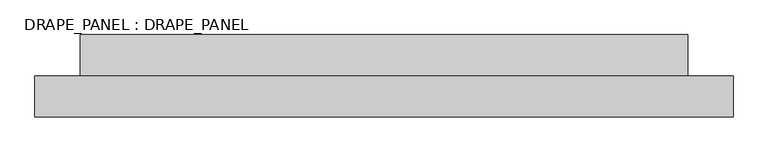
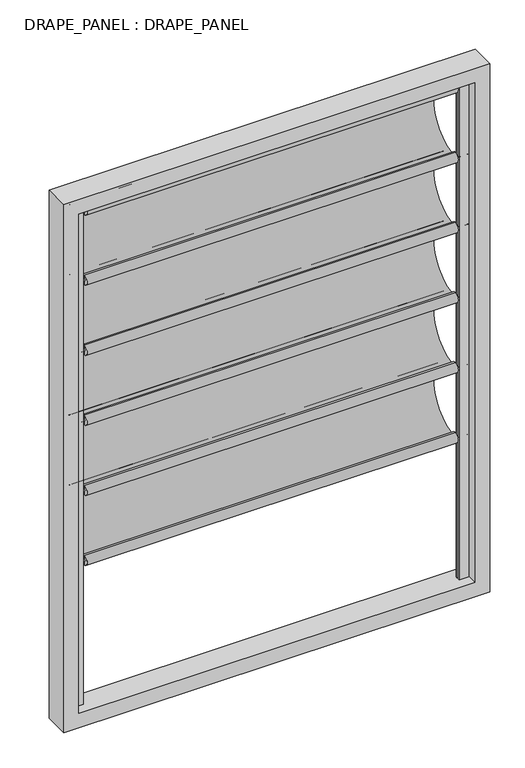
"""IFC4 building model written with IfcOpenShell, lengths in millimetres: plate geometry, DRAPE_PANEL : DRAPE_PANEL."""

import ifcopenshell
import ifcopenshell.guid

model = None  # the IFC model being written
_history = None  # IfcOwnerHistory: only IFC2X3 demands one
_inside = {}  # id of a spatial element -> (the spatial element, [elements in it])
_under = {}  # id of a project, library or spatial element -> (it, [spatial elements below it])
_declared = {}  # id of a project -> (the project, [libraries it declares])
_typed = {}  # id of a type object -> (the type object, [elements of that type])
_made_of = {}  # id of a material, layer set ... -> (it, [elements and type objects made of it])


def new_model(schema):
    """Start an empty IFC model of exactly this schema.

    Asked for "IFC4X3", IfcOpenShell would pick the latest addendum, in which some entities
    have other attributes; the version numbers below select the first issue.
    IFC2X3 requires an IfcOwnerHistory on every rooted entity: one is made here for all.
    """
    global model, _history
    if schema == "IFC4X3":
        model = ifcopenshell.file(schema_version=(4, 3, 0, 0))
    else:
        model = ifcopenshell.file(schema=schema)
    _inside.clear()
    _under.clear()
    _declared.clear()
    _typed.clear()
    _made_of.clear()
    _history = None
    if model.schema == "IFC2X3":
        org = make("IfcOrganization", Name="unknown")
        user = make(
            "IfcPersonAndOrganization",
            ThePerson=make("IfcPerson", FamilyName="unknown"),
            TheOrganization=org,
        )
        app = make(
            "IfcApplication",
            ApplicationDeveloper=org,
            Version="unknown",
            ApplicationFullName="unknown",
            ApplicationIdentifier="unknown",
        )
        _history = make(
            "IfcOwnerHistory",
            OwningUser=user,
            OwningApplication=app,
            ChangeAction="ADDED",
            CreationDate=0,
        )
    return model


def make(cls, **values):
    """One entity of the class cls with the attributes given. An attribute that is None is left unset."""
    return model.create_entity(
        cls, **{name: value for name, value in values.items() if value is not None}
    )


def rooted(cls, **values):
    """An entity with a GlobalId (a new one), such as an element, a storey or a relation."""
    return make(cls, GlobalId=ifcopenshell.guid.new(), OwnerHistory=_history, **values)


def si_unit(unit_type, name, prefix=None):
    """IfcSIUnit, for example si_unit("LENGTHUNIT", "METRE", prefix="MILLI")."""
    return make("IfcSIUnit", UnitType=unit_type, Prefix=prefix, Name=name)


def assignment(units):
    """IfcUnitAssignment: the units of a project."""
    return None if units is None else make("IfcUnitAssignment", Units=units)


def point(xyz):
    """IfcCartesianPoint."""
    return None if xyz is None else make("IfcCartesianPoint", Coordinates=xyz)


def direction(xyz):
    """IfcDirection."""
    return None if xyz is None else make("IfcDirection", DirectionRatios=xyz)


def frame(location, z_axis=None, x_axis=None):
    """IfcAxis2Placement3D, a coordinate frame: its origin and axes. An axis left out is left unset."""
    return make(
        "IfcAxis2Placement3D",
        Location=point(location),
        Axis=direction(z_axis),
        RefDirection=direction(x_axis),
    )


def origin():
    """The frame at (0, 0, 0) with its axes left unset."""
    return frame((0.0, 0.0, 0.0))


def place(relative_to, where):
    """IfcLocalPlacement: puts the frame where relative to a parent placement (None: the world)."""
    return make(
        "IfcLocalPlacement", PlacementRelTo=relative_to, RelativePlacement=where
    )


def context(
    kind, dimensions, precision=None, world=None, true_north=None, identifier=None
):
    """IfcGeometricRepresentationContext, for example the 3D "Model" context."""
    return make(
        "IfcGeometricRepresentationContext",
        ContextIdentifier=identifier,
        ContextType=kind,
        CoordinateSpaceDimension=dimensions,
        Precision=precision,
        WorldCoordinateSystem=world,
        TrueNorth=true_north,
    )


def project(units=None, contexts=None):
    """IfcProject with its units and contexts."""
    return rooted(
        "IfcProject",
        Name="project",
        RepresentationContexts=contexts,
        UnitsInContext=assignment(units),
    )


def spatial(cls, under=None, at=None, **own):
    """A site, building, storey or space (cls), placed at a placement, below another one or the project."""
    s = rooted(cls, ObjectPlacement=at, **own)
    if under is not None:
        _under.setdefault(under.id(), (under, []))[1].append(s)
    return s


def polyline(points):
    """IfcPolyline through the points."""
    return make("IfcPolyline", Points=[point(p) for p in points])


def circle_curve(where, radius):
    """IfcCircle in the frame where."""
    return make("IfcCircle", Position=where, Radius=radius)


def ellipse_curve(where, semi_axis1, semi_axis2):
    """IfcEllipse in the frame where."""
    return make(
        "IfcEllipse", Position=where, SemiAxis1=semi_axis1, SemiAxis2=semi_axis2
    )


def trimmed(basis, trim1, trim2, sense, master):
    """IfcTrimmedCurve: the piece of a basis curve between two trims."""
    return make(
        "IfcTrimmedCurve",
        BasisCurve=basis,
        Trim1=trim1,
        Trim2=trim2,
        SenseAgreement=sense,
        MasterRepresentation=master,
    )


def outline(outer, holes=None, kind="AREA"):
    """IfcArbitraryClosedProfileDef: a profile drawn as a closed curve; with holes, ...WithVoids."""
    if holes is None:
        return make("IfcArbitraryClosedProfileDef", ProfileType=kind, OuterCurve=outer)
    return make(
        "IfcArbitraryProfileDefWithVoids",
        ProfileType=kind,
        OuterCurve=outer,
        InnerCurves=holes,
    )


def extrude(swept, where, along, depth):
    """IfcExtrudedAreaSolid: the profile swept, set in the frame where, extruded along a direction by depth."""
    return make(
        "IfcExtrudedAreaSolid",
        SweptArea=swept,
        Position=where,
        ExtrudedDirection=direction(along),
        Depth=depth,
    )


def shape(context_of_items, identifier, shape_type, items):
    """IfcShapeRepresentation: the items that make up one representation, for example the "Body"."""
    return make(
        "IfcShapeRepresentation",
        ContextOfItems=context_of_items,
        RepresentationIdentifier=identifier,
        RepresentationType=shape_type,
        Items=items,
    )


def source(mapping_origin, context_of_items, identifier, shape_type, items):
    """IfcRepresentationMap: a shape defined once, which mapped items show again and again."""
    return make(
        "IfcRepresentationMap",
        MappingOrigin=mapping_origin,
        MappedRepresentation=shape(context_of_items, identifier, shape_type, items),
    )


def transform(
    local_origin,
    x_axis=None,
    y_axis=None,
    z_axis=None,
    scale=None,
    scale2=None,
    scale3=None,
    uniform=True,
):
    """IfcCartesianTransformationOperator3D, or its non-uniform kind. x_axis, y_axis, z_axis: its Axis1, 2, 3."""
    if uniform:
        return make(
            "IfcCartesianTransformationOperator3D",
            Axis1=direction(x_axis),
            Axis2=direction(y_axis),
            LocalOrigin=point(local_origin),
            Scale=scale,
            Axis3=direction(z_axis),
        )
    return make(
        "IfcCartesianTransformationOperator3DnonUniform",
        Axis1=direction(x_axis),
        Axis2=direction(y_axis),
        LocalOrigin=point(local_origin),
        Scale=scale,
        Axis3=direction(z_axis),
        Scale2=scale2,
        Scale3=scale3,
    )


def mapped(mapping_source, mapping_target):
    """IfcMappedItem: shows the shape of a source again, moved by a transform."""
    return make(
        "IfcMappedItem", MappingSource=mapping_source, MappingTarget=mapping_target
    )


def made_of(thing, what):
    """Note that an element or type object is made of a material, layer set ...; save() writes the relation."""
    if what is not None:
        _made_of.setdefault(what.id(), (what, []))[1].append(thing)
    return thing


def element(
    cls,
    number,
    at=None,
    inside=None,
    cuts=None,
    type_object=None,
    material=None,
    context=None,
    identifier="Body",
    shape_type=None,
    held_by="IfcProductDefinitionShape",
    body=None,
    shapes=None,
    **own,
):
    """One element of the class cls, such as IfcWall. Its Tag is "e" and its number.

    at: its placement. inside: the storey or other place that contains it. cuts: it is an
    opening in that element (IfcRelVoidsElement). A single representation is given by context,
    identifier, shape_type and body (its items); several are given by shapes. held_by: the class
    of the entity that holds the representations. save() writes the other relations.
    """
    e = rooted(cls, Tag="e%d" % number, ObjectPlacement=at, **own)
    if body is not None:
        shapes = [shape(context, identifier, shape_type, body)]
    if shapes is not None:
        e.Representation = make(held_by, Representations=shapes)
    if inside is not None:
        _inside.setdefault(inside.id(), (inside, []))[1].append(e)
    if cuts is not None:
        rooted(
            "IfcRelVoidsElement", RelatingBuildingElement=cuts, RelatedOpeningElement=e
        )
    if type_object is not None:
        _typed.setdefault(type_object.id(), (type_object, []))[1].append(e)
    return made_of(e, material)


def aggregate(whole, parts):
    """IfcRelAggregates: a whole, such as a stair, and the parts it consists of."""
    return rooted("IfcRelAggregates", RelatingObject=whole, RelatedObjects=parts)


def save(model, path):
    """Write the relations noted so far, then the file.

    IfcRelAggregates (storeys below a building ...), IfcRelContainedInSpatialStructure (elements
    in a storey), IfcRelDefinesByType, IfcRelAssociatesMaterial and IfcRelDeclares: one each for
    every whole, place, type object, material and project.
    """
    for whole, parts in _under.values():
        aggregate(whole, parts)
    for where, things in _inside.values():
        rooted(
            "IfcRelContainedInSpatialStructure",
            RelatedElements=things,
            RelatingStructure=where,
        )
    for kind, things in _typed.values():
        rooted("IfcRelDefinesByType", RelatedObjects=things, RelatingType=kind)
    for what, things in _made_of.values():
        rooted("IfcRelAssociatesMaterial", RelatedObjects=things, RelatingMaterial=what)
    for by, libraries in _declared.values():
        rooted("IfcRelDeclares", RelatingContext=by, RelatedDefinitions=libraries)
    model.write(path)


def plane_surface(at):
    """IfcPlane: the flat surface through the origin of the frame at, square to its z axis."""
    return make("IfcPlane", Position=at)


def cylinder_surface(at, radius):
    """IfcCylindricalSurface: all points at the distance radius from the z axis of the frame at."""
    return make("IfcCylindricalSurface", Position=at, Radius=radius)


def extruded_surface(curve, direction_of_extrusion, depth):
    """IfcSurfaceOfLinearExtrusion: the curve pushed along a direction by depth."""
    return make(
        "IfcSurfaceOfLinearExtrusion",
        SweptCurve=make("IfcArbitraryOpenProfileDef", ProfileType="CURVE", Curve=curve),
        ExtrudedDirection=direction(direction_of_extrusion),
        Depth=depth,
    )


def advanced_brep(points, edges, surfaces, faces):
    """IfcAdvancedBrep: a solid bounded by faces that lie on surfaces and meet in shared edges.

    An edge is (start, end): straight between two places in points (the first is 0);
    or (start, end, curve); or (start, end, curve, False) where it runs against its curve.
    A face is (place in surfaces, loops), or (place, loops, False) where it looks against
    its surface's normal. A loop lists edges by number (the first is 1), with a minus sign
    where the edge is run from its end to its start. The first loop is the outer one.
    """
    corners = [point(p) for p in points]
    vertices = [make("IfcVertexPoint", VertexGeometry=c) for c in corners]
    made = []
    for start, end, *more in edges:
        made.append(
            make(
                "IfcEdgeCurve",
                EdgeStart=vertices[start],
                EdgeEnd=vertices[end],
                EdgeGeometry=more[0] if more else make("IfcPolyline", Points=[corners[start], corners[end]]),
                SameSense=more[1] if len(more) > 1 else True,
            )
        )
    hull = []
    for where, loops, *sense in faces:
        bounds = []
        for j, loop in enumerate(loops):
            ring = [make("IfcOrientedEdge", EdgeElement=made[abs(k) - 1], Orientation=k > 0) for k in loop]
            bounds.append(
                make(
                    "IfcFaceOuterBound" if j == 0 else "IfcFaceBound",
                    Bound=make("IfcEdgeLoop", EdgeList=ring),
                    Orientation=True,
                )
            )
        hull.append(make("IfcAdvancedFace", Bounds=bounds, FaceSurface=surfaces[where], SameSense=sense[0] if sense else True))
    return make("IfcAdvancedBrep", Outer=make("IfcClosedShell", CfsFaces=hull))


def drape_panel_drape_panel_09784488(model_context):
    return source(origin(), model_context, "Body", "SolidModel", [
        advanced_brep(
        [(-790.0, 0.0, 1251.5019792), (-790.0, 0.0, 1256.5019792), (-790.0, 0.0, 1246.5019792), (790.0, 0.0, 1246.5019792), (790.0, 0.0, 1256.5019792), (790.0, 0.0, 1251.5019792), (740.0, 0.0, 1246.5019792), (740.0, 0.0, 1256.5019792), (740.0, 0.0, 1231.5019792), (740.0, 0.0, 1271.5019792), (-740.0, 0.0, 1231.5019792), (-740.0, 0.0, 1271.5019792), (-740.0, 0.0, 1246.5019792), (-740.0, 0.0, 1256.5019792)],
        [
            (0, 1),
            (1, 2, circle_curve(frame((-790.0, 0.0, 1251.5019792), z_axis=(-1.0, 0.0, 0.0), x_axis=(0.0, 0.0, 1.0)), 5.0)),
            (2, 0),
            (2, 1, circle_curve(frame((-790.0, 0.0, 1251.5019792), z_axis=(-1.0, 0.0, 0.0), x_axis=(0.0, 0.0, 1.0)), 5.0)),
            (3, 4, circle_curve(frame((790.0, 0.0, 1251.5019792), z_axis=(1.0, 0.0, 0.0), x_axis=(0.0, 0.0, 1.0)), 5.0)),
            (4, 5),
            (5, 3),
            (4, 3, circle_curve(frame((790.0, 0.0, 1251.5019792), z_axis=(1.0, 0.0, 0.0), x_axis=(0.0, 0.0, 1.0)), 5.0)),
            (6, 7, circle_curve(frame((740.0, 0.0, 1251.5019792), z_axis=(1.0, 0.0, 0.0), x_axis=(0.0, 0.0, 1.0)), 5.0)),
            (7, 4),
            (3, 6),
            (7, 6, circle_curve(frame((740.0, 0.0, 1251.5019792), z_axis=(1.0, 0.0, 0.0), x_axis=(0.0, 0.0, 1.0)), 5.0)),
            (8, 9, circle_curve(frame((740.0, 0.0, 1251.5019792), z_axis=(1.0, 0.0, 0.0), x_axis=(0.0, 0.0, 1.0)), 20.0)),
            (9, 7),
            (6, 8),
            (9, 8, circle_curve(frame((740.0, 0.0, 1251.5019792), z_axis=(1.0, 0.0, 0.0), x_axis=(0.0, 0.0, 1.0)), 20.0)),
            (10, 11, circle_curve(frame((-740.0, 0.0, 1251.5019792), z_axis=(1.0, 0.0, 0.0), x_axis=(0.0, 0.0, 1.0)), 20.0)),
            (11, 9),
            (8, 10),
            (11, 10, circle_curve(frame((-740.0, 0.0, 1251.5019792), z_axis=(1.0, 0.0, 0.0), x_axis=(0.0, 0.0, 1.0)), 20.0)),
            (12, 13, circle_curve(frame((-740.0, 0.0, 1251.5019792), z_axis=(1.0, 0.0, 0.0), x_axis=(0.0, 0.0, 1.0)), 5.0)),
            (13, 11),
            (10, 12),
            (13, 12, circle_curve(frame((-740.0, 0.0, 1251.5019792), z_axis=(1.0, 0.0, 0.0), x_axis=(0.0, 0.0, 1.0)), 5.0)),
            (1, 13),
            (12, 2),
        ],
        [
            plane_surface(frame((-790.0, 0.0, 1251.5019792), z_axis=(-1.0, 0.0, 0.0), x_axis=(0.0, 0.0, 1.0))),
            plane_surface(frame((790.0, 0.0, 1251.5019792), z_axis=(1.0, 0.0, 0.0), x_axis=(0.0, 0.0, 1.0))),
            cylinder_surface(frame((6238.8752301, 0.0, 1251.5019792), z_axis=(-1.0, 0.0, 0.0), x_axis=(0.0, 0.0, 1.0)), 5.0),
            plane_surface(frame((740.0, 0.0, 1251.5019792), z_axis=(1.0, 0.0, 0.0), x_axis=(0.0, 0.0, 1.0))),
            cylinder_surface(frame((6238.8752301, 0.0, 1251.5019792), z_axis=(-1.0, 0.0, 0.0), x_axis=(0.0, 0.0, 1.0)), 20.0),
            plane_surface(frame((-740.0, 0.0, 1251.5019792), z_axis=(-1.0, 0.0, 0.0), x_axis=(0.0, 0.0, 1.0))),
        ],
        [
            (0, [[1, 2, 3]]),
            (0, [[-3, 4, -1]]),
            (1, [[5, 6, 7]]),
            (1, [[8, -7, -6]]),
            (2, [[9, 10, -5, 11]]),
            (2, [[12, -11, -8, -10]]),
            (3, [[13, 14, -9, 15]]),
            (3, [[16, -15, -12, -14]]),
            (4, [[17, 18, -13, 19]]),
            (4, [[20, -19, -16, -18]]),
            (5, [[21, 22, -17, 23]]),
            (5, [[24, -23, -20, -22]]),
            (2, [[-2, 25, -21, 26]]),
            (2, [[-4, -26, -24, -25]]),
        ],
    ),
        advanced_brep(
        [(740.0, 0.0, 1251.5019792), (740.0, 0.0, 1248.5019792), (740.0, 0.0, 958.7509896), (740.0, 0.0, 955.7509896), (-740.0, 0.0, 1251.5019792), (-740.0, 0.0, 955.7509896), (-740.0, 0.0, 958.7509896), (-740.0, 0.0, 1248.5019792)],
        [
            (0, 1),
            (1, 2, ellipse_curve(frame((740.0, 0.0, 1103.6264844), z_axis=(-1.0, 0.0, 0.0), x_axis=(0.0, -1.0, 0.0)), 147.6787319, 144.8754948)),
            (2, 3),
            (3, 0, ellipse_curve(frame((740.0, 0.0, 1103.6264844), z_axis=(1.0, 0.0, 0.0), x_axis=(0.0, 1.0, 0.0)), 150.6787319, 147.8754948)),
            (4, 5, ellipse_curve(frame((-740.0, 0.0, 1103.6264844), z_axis=(-1.0, 0.0, 0.0), x_axis=(0.0, 0.0, -1.0)), 147.8754948, 150.6787319)),
            (5, 6),
            (6, 7, ellipse_curve(frame((-740.0, 0.0, 1103.6264844), z_axis=(1.0, 0.0, 0.0), x_axis=(0.0, 0.0, -1.0)), 144.8754948, 147.6787319)),
            (7, 4),
            (0, 4),
            (7, 1),
            (6, 2),
            (5, 3),
        ],
        [
            plane_surface(frame((740.0, 0.0, 1251.5019792), z_axis=(1.0, 0.0, 0.0), x_axis=(0.0, -1.202815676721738e-12, -1.0))),
            plane_surface(frame((-740.0, 0.0, 1251.5019792), z_axis=(-1.0, 0.0, 0.0), x_axis=(0.0, 1.202815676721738e-12, 1.0))),
            plane_surface(frame((740.0, 0.0, 1251.5019792), z_axis=(0.0, -1.0, 1.202815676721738e-12), x_axis=(-1.0, 0.0, 0.0))),
            extruded_surface(trimmed(ellipse_curve(frame((-2220.0, 0.0, 1103.6264844), z_axis=(-1.0, 0.0, 0.0), x_axis=(0.0, 0.0, -1.0)), 144.8754948, 147.6787319), [point((-2220.0, 0.0, 1248.5019792))], [point((-2220.0, 0.0, 958.7509896))], True, "CARTESIAN"), (1480.0, 0.0, 0.0), 1480.0),
            plane_surface(frame((740.0, 0.0, 958.7509896), z_axis=(0.0, -1.0, 0.0), x_axis=(-1.0, 0.0, 0.0))),
            extruded_surface(trimmed(ellipse_curve(frame((-2220.0, 0.0, 1103.6264844), z_axis=(1.0, 0.0, 0.0), x_axis=(0.0, 0.0, -1.0)), 147.8754948, 150.6787319), [point((-2220.0, 0.0, 955.7509896))], [point((-2220.0, 0.0, 1251.5019792))], True, "CARTESIAN"), (1480.0, 0.0, 0.0), 1480.0),
        ],
        [
            (0, [[1, 2, 3, 4]]),
            (1, [[5, 6, 7, 8]]),
            (2, [[-1, 9, -8, 10]]),
            (3, [[-2, -10, -7, 11]]),
            (4, [[-3, -11, -6, 12]]),
            (5, [[-4, -12, -5, -9]]),
        ],
    ),
        advanced_brep(
        [(-790.0, 0.0, 1547.2529688), (-790.0, 0.0, 1552.2529688), (-790.0, 0.0, 1542.2529688), (790.0, 0.0, 1542.2529688), (790.0, 0.0, 1552.2529688), (790.0, 0.0, 1547.2529688), (740.0, 0.0, 1542.2529688), (740.0, 0.0, 1552.2529688), (740.0, 0.0, 1527.2529688), (740.0, 0.0, 1567.2529688), (-740.0, 0.0, 1527.2529688), (-740.0, 0.0, 1567.2529688), (-740.0, 0.0, 1542.2529688), (-740.0, 0.0, 1552.2529688)],
        [
            (0, 1),
            (1, 2, circle_curve(frame((-790.0, 0.0, 1547.2529688), z_axis=(-1.0, 0.0, 0.0), x_axis=(0.0, 0.0, 1.0)), 5.0)),
            (2, 0),
            (2, 1, circle_curve(frame((-790.0, 0.0, 1547.2529688), z_axis=(-1.0, 0.0, 0.0), x_axis=(0.0, 0.0, 1.0)), 5.0)),
            (3, 4, circle_curve(frame((790.0, 0.0, 1547.2529688), z_axis=(1.0, 0.0, 0.0), x_axis=(0.0, 0.0, 1.0)), 5.0)),
            (4, 5),
            (5, 3),
            (4, 3, circle_curve(frame((790.0, 0.0, 1547.2529688), z_axis=(1.0, 0.0, 0.0), x_axis=(0.0, 0.0, 1.0)), 5.0)),
            (6, 7, circle_curve(frame((740.0, 0.0, 1547.2529688), z_axis=(1.0, 0.0, 0.0), x_axis=(0.0, 0.0, 1.0)), 5.0)),
            (7, 4),
            (3, 6),
            (7, 6, circle_curve(frame((740.0, 0.0, 1547.2529688), z_axis=(1.0, 0.0, 0.0), x_axis=(0.0, 0.0, 1.0)), 5.0)),
            (8, 9, circle_curve(frame((740.0, 0.0, 1547.2529688), z_axis=(1.0, 0.0, 0.0), x_axis=(0.0, 0.0, 1.0)), 20.0)),
            (9, 7),
            (6, 8),
            (9, 8, circle_curve(frame((740.0, 0.0, 1547.2529688), z_axis=(1.0, 0.0, 0.0), x_axis=(0.0, 0.0, 1.0)), 20.0)),
            (10, 11, circle_curve(frame((-740.0, 0.0, 1547.2529688), z_axis=(1.0, 0.0, 0.0), x_axis=(0.0, 0.0, 1.0)), 20.0)),
            (11, 9),
            (8, 10),
            (11, 10, circle_curve(frame((-740.0, 0.0, 1547.2529688), z_axis=(1.0, 0.0, 0.0), x_axis=(0.0, 0.0, 1.0)), 20.0)),
            (12, 13, circle_curve(frame((-740.0, 0.0, 1547.2529688), z_axis=(1.0, 0.0, 0.0), x_axis=(0.0, 0.0, 1.0)), 5.0)),
            (13, 11),
            (10, 12),
            (13, 12, circle_curve(frame((-740.0, 0.0, 1547.2529688), z_axis=(1.0, 0.0, 0.0), x_axis=(0.0, 0.0, 1.0)), 5.0)),
            (1, 13),
            (12, 2),
        ],
        [
            plane_surface(frame((-790.0, 0.0, 1547.2529688), z_axis=(-1.0, 0.0, 0.0), x_axis=(0.0, 0.0, 1.0))),
            plane_surface(frame((790.0, 0.0, 1547.2529688), z_axis=(1.0, 0.0, 0.0), x_axis=(0.0, 0.0, 1.0))),
            cylinder_surface(frame((6238.8752301, 0.0, 1547.2529688), z_axis=(-1.0, 0.0, 0.0), x_axis=(0.0, 0.0, 1.0)), 5.0),
            plane_surface(frame((740.0, 0.0, 1547.2529688), z_axis=(1.0, 0.0, 0.0), x_axis=(0.0, 0.0, 1.0))),
            cylinder_surface(frame((6238.8752301, 0.0, 1547.2529688), z_axis=(-1.0, 0.0, 0.0), x_axis=(0.0, 0.0, 1.0)), 20.0),
            plane_surface(frame((-740.0, 0.0, 1547.2529688), z_axis=(-1.0, 0.0, 0.0), x_axis=(0.0, 0.0, 1.0))),
        ],
        [
            (0, [[1, 2, 3]]),
            (0, [[-3, 4, -1]]),
            (1, [[5, 6, 7]]),
            (1, [[8, -7, -6]]),
            (2, [[9, 10, -5, 11]]),
            (2, [[12, -11, -8, -10]]),
            (3, [[13, 14, -9, 15]]),
            (3, [[16, -15, -12, -14]]),
            (4, [[17, 18, -13, 19]]),
            (4, [[20, -19, -16, -18]]),
            (5, [[21, 22, -17, 23]]),
            (5, [[24, -23, -20, -22]]),
            (2, [[-2, 25, -21, 26]]),
            (2, [[-4, -26, -24, -25]]),
        ],
    ),
        advanced_brep(
        [(740.0, 0.0, 1547.2529688), (740.0, 0.0, 1544.2529688), (740.0, 0.0, 1254.5019792), (740.0, 0.0, 1251.5019792), (-740.0, 0.0, 1547.2529688), (-740.0, 0.0, 1251.5019792), (-740.0, 0.0, 1254.5019792), (-740.0, 0.0, 1544.2529688)],
        [
            (0, 1),
            (1, 2, ellipse_curve(frame((740.0, 0.0, 1399.377474), z_axis=(-1.0, 0.0, 0.0), x_axis=(0.0, -1.0, 0.0)), 147.6787319, 144.8754948)),
            (2, 3),
            (3, 0, ellipse_curve(frame((740.0, 0.0, 1399.377474), z_axis=(1.0, 0.0, 0.0), x_axis=(0.0, 1.0, 0.0)), 150.6787319, 147.8754948)),
            (4, 5, ellipse_curve(frame((-740.0, 0.0, 1399.377474), z_axis=(-1.0, 0.0, 0.0), x_axis=(0.0, 0.0, -1.0)), 147.8754948, 150.6787319)),
            (5, 6),
            (6, 7, ellipse_curve(frame((-740.0, 0.0, 1399.377474), z_axis=(1.0, 0.0, 0.0), x_axis=(0.0, 0.0, -1.0)), 144.8754948, 147.6787319)),
            (7, 4),
            (0, 4),
            (7, 1),
            (6, 2),
            (5, 3),
        ],
        [
            plane_surface(frame((740.0, 0.0, 1547.2529688), z_axis=(1.0, 0.0, 0.0), x_axis=(0.0, -1.202815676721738e-12, -1.0))),
            plane_surface(frame((-740.0, 0.0, 1547.2529688), z_axis=(-1.0, 0.0, 0.0), x_axis=(0.0, 1.202815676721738e-12, 1.0))),
            plane_surface(frame((740.0, 0.0, 1547.2529688), z_axis=(0.0, -1.0, 1.202815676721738e-12), x_axis=(-1.0, 0.0, 0.0))),
            extruded_surface(trimmed(ellipse_curve(frame((-2220.0, 0.0, 1399.377474), z_axis=(-1.0, 0.0, 0.0), x_axis=(0.0, 0.0, -1.0)), 144.8754948, 147.6787319), [point((-2220.0, 0.0, 1544.2529688))], [point((-2220.0, 0.0, 1254.5019792))], True, "CARTESIAN"), (1480.0, 0.0, 0.0), 1480.0),
            plane_surface(frame((740.0, 0.0, 1254.5019792), z_axis=(0.0, -1.0, 0.0), x_axis=(-1.0, 0.0, 0.0))),
            extruded_surface(trimmed(ellipse_curve(frame((-2220.0, 0.0, 1399.377474), z_axis=(1.0, 0.0, 0.0), x_axis=(0.0, 0.0, -1.0)), 147.8754948, 150.6787319), [point((-2220.0, 0.0, 1251.5019792))], [point((-2220.0, 0.0, 1547.2529688))], True, "CARTESIAN"), (1480.0, 0.0, 0.0), 1480.0),
        ],
        [
            (0, [[1, 2, 3, 4]]),
            (1, [[5, 6, 7, 8]]),
            (2, [[-1, 9, -8, 10]]),
            (3, [[-2, -10, -7, 11]]),
            (4, [[-3, -11, -6, 12]]),
            (5, [[-4, -12, -5, -9]]),
        ],
    ),
        advanced_brep(
        [(-790.0, 0.0, 1843.0039583), (-790.0, 0.0, 1848.0039583), (-790.0, 0.0, 1838.0039583), (790.0, 0.0, 1838.0039583), (790.0, 0.0, 1848.0039583), (790.0, 0.0, 1843.0039583), (740.0, 0.0, 1838.0039583), (740.0, 0.0, 1848.0039583), (740.0, 0.0, 1823.0039583), (740.0, 0.0, 1863.0039583), (-740.0, 0.0, 1823.0039583), (-740.0, 0.0, 1863.0039583), (-740.0, 0.0, 1838.0039583), (-740.0, 0.0, 1848.0039583)],
        [
            (0, 1),
            (1, 2, circle_curve(frame((-790.0, 0.0, 1843.0039583), z_axis=(-1.0, 0.0, 0.0), x_axis=(0.0, 0.0, 1.0)), 5.0)),
            (2, 0),
            (2, 1, circle_curve(frame((-790.0, 0.0, 1843.0039583), z_axis=(-1.0, 0.0, 0.0), x_axis=(0.0, 0.0, 1.0)), 5.0)),
            (3, 4, circle_curve(frame((790.0, 0.0, 1843.0039583), z_axis=(1.0, 0.0, 0.0), x_axis=(0.0, 0.0, 1.0)), 5.0)),
            (4, 5),
            (5, 3),
            (4, 3, circle_curve(frame((790.0, 0.0, 1843.0039583), z_axis=(1.0, 0.0, 0.0), x_axis=(0.0, 0.0, 1.0)), 5.0)),
            (6, 7, circle_curve(frame((740.0, 0.0, 1843.0039583), z_axis=(1.0, 0.0, 0.0), x_axis=(0.0, 0.0, 1.0)), 5.0)),
            (7, 4),
            (3, 6),
            (7, 6, circle_curve(frame((740.0, 0.0, 1843.0039583), z_axis=(1.0, 0.0, 0.0), x_axis=(0.0, 0.0, 1.0)), 5.0)),
            (8, 9, circle_curve(frame((740.0, 0.0, 1843.0039583), z_axis=(1.0, 0.0, 0.0), x_axis=(0.0, 0.0, 1.0)), 20.0)),
            (9, 7),
            (6, 8),
            (9, 8, circle_curve(frame((740.0, 0.0, 1843.0039583), z_axis=(1.0, 0.0, 0.0), x_axis=(0.0, 0.0, 1.0)), 20.0)),
            (10, 11, circle_curve(frame((-740.0, 0.0, 1843.0039583), z_axis=(1.0, 0.0, 0.0), x_axis=(0.0, 0.0, 1.0)), 20.0)),
            (11, 9),
            (8, 10),
            (11, 10, circle_curve(frame((-740.0, 0.0, 1843.0039583), z_axis=(1.0, 0.0, 0.0), x_axis=(0.0, 0.0, 1.0)), 20.0)),
            (12, 13, circle_curve(frame((-740.0, 0.0, 1843.0039583), z_axis=(1.0, 0.0, 0.0), x_axis=(0.0, 0.0, 1.0)), 5.0)),
            (13, 11),
            (10, 12),
            (13, 12, circle_curve(frame((-740.0, 0.0, 1843.0039583), z_axis=(1.0, 0.0, 0.0), x_axis=(0.0, 0.0, 1.0)), 5.0)),
            (1, 13),
            (12, 2),
        ],
        [
            plane_surface(frame((-790.0, 0.0, 1843.0039583), z_axis=(-1.0, 0.0, 0.0), x_axis=(0.0, 0.0, 1.0))),
            plane_surface(frame((790.0, 0.0, 1843.0039583), z_axis=(1.0, 0.0, 0.0), x_axis=(0.0, 0.0, 1.0))),
            cylinder_surface(frame((6238.8752301, 0.0, 1843.0039583), z_axis=(-1.0, 0.0, 0.0), x_axis=(0.0, 0.0, 1.0)), 5.0),
            plane_surface(frame((740.0, 0.0, 1843.0039583), z_axis=(1.0, 0.0, 0.0), x_axis=(0.0, 0.0, 1.0))),
            cylinder_surface(frame((6238.8752301, 0.0, 1843.0039583), z_axis=(-1.0, 0.0, 0.0), x_axis=(0.0, 0.0, 1.0)), 20.0),
            plane_surface(frame((-740.0, 0.0, 1843.0039583), z_axis=(-1.0, 0.0, 0.0), x_axis=(0.0, 0.0, 1.0))),
        ],
        [
            (0, [[1, 2, 3]]),
            (0, [[-3, 4, -1]]),
            (1, [[5, 6, 7]]),
            (1, [[8, -7, -6]]),
            (2, [[9, 10, -5, 11]]),
            (2, [[12, -11, -8, -10]]),
            (3, [[13, 14, -9, 15]]),
            (3, [[16, -15, -12, -14]]),
            (4, [[17, 18, -13, 19]]),
            (4, [[20, -19, -16, -18]]),
            (5, [[21, 22, -17, 23]]),
            (5, [[24, -23, -20, -22]]),
            (2, [[-2, 25, -21, 26]]),
            (2, [[-4, -26, -24, -25]]),
        ],
    ),
        advanced_brep(
        [(740.0, 0.0, 1843.0039583), (740.0, 0.0, 1840.0039583), (740.0, 0.0, 1550.2529688), (740.0, 0.0, 1547.2529688), (-740.0, 0.0, 1843.0039583), (-740.0, 0.0, 1547.2529688), (-740.0, 0.0, 1550.2529688), (-740.0, 0.0, 1840.0039583)],
        [
            (0, 1),
            (1, 2, ellipse_curve(frame((740.0, 0.0, 1695.1284635), z_axis=(-1.0, 0.0, 0.0), x_axis=(0.0, -1.0, 0.0)), 147.6787319, 144.8754948)),
            (2, 3),
            (3, 0, ellipse_curve(frame((740.0, 0.0, 1695.1284635), z_axis=(1.0, 0.0, 0.0), x_axis=(0.0, 1.0, 0.0)), 150.6787319, 147.8754948)),
            (4, 5, ellipse_curve(frame((-740.0, 0.0, 1695.1284635), z_axis=(-1.0, 0.0, 0.0), x_axis=(0.0, 0.0, -1.0)), 147.8754948, 150.6787319)),
            (5, 6),
            (6, 7, ellipse_curve(frame((-740.0, 0.0, 1695.1284635), z_axis=(1.0, 0.0, 0.0), x_axis=(0.0, 0.0, -1.0)), 144.8754948, 147.6787319)),
            (7, 4),
            (0, 4),
            (7, 1),
            (6, 2),
            (5, 3),
        ],
        [
            plane_surface(frame((740.0, 0.0, 1843.0039583), z_axis=(1.0, 0.0, 0.0), x_axis=(0.0, -1.202815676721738e-12, -1.0))),
            plane_surface(frame((-740.0, 0.0, 1843.0039583), z_axis=(-1.0, 0.0, 0.0), x_axis=(0.0, 1.202815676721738e-12, 1.0))),
            plane_surface(frame((740.0, 0.0, 1843.0039583), z_axis=(0.0, -1.0, 1.202815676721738e-12), x_axis=(-1.0, 0.0, 0.0))),
            extruded_surface(trimmed(ellipse_curve(frame((-2220.0, 0.0, 1695.1284635), z_axis=(-1.0, 0.0, 0.0), x_axis=(0.0, 0.0, -1.0)), 144.8754948, 147.6787319), [point((-2220.0, 0.0, 1840.0039583))], [point((-2220.0, 0.0, 1550.2529687))], True, "CARTESIAN"), (1480.0, 0.0, 0.0), 1480.0),
            plane_surface(frame((740.0, 0.0, 1550.2529688), z_axis=(0.0, -1.0, 0.0), x_axis=(-1.0, 0.0, 0.0))),
            extruded_surface(trimmed(ellipse_curve(frame((-2220.0, 0.0, 1695.1284635), z_axis=(1.0, 0.0, 0.0), x_axis=(0.0, 0.0, -1.0)), 147.8754948, 150.6787319), [point((-2220.0, 0.0, 1547.2529688))], [point((-2220.0, 0.0, 1843.0039583))], True, "CARTESIAN"), (1480.0, 0.0, 0.0), 1480.0),
        ],
        [
            (0, [[1, 2, 3, 4]]),
            (1, [[5, 6, 7, 8]]),
            (2, [[-1, 9, -8, 10]]),
            (3, [[-2, -10, -7, 11]]),
            (4, [[-3, -11, -6, 12]]),
            (5, [[-4, -12, -5, -9]]),
        ],
    ),
        advanced_brep(
        [(-790.0, 0.0, 955.7509896), (-790.0, 0.0, 960.7509896), (-790.0, 0.0, 950.7509896), (790.0, 0.0, 950.7509896), (790.0, 0.0, 960.7509896), (790.0, 0.0, 955.7509896), (740.0, 0.0, 950.7509896), (740.0, 0.0, 960.7509896), (740.0, 0.0, 935.7509896), (740.0, 0.0, 975.7509896), (-740.0, 0.0, 935.7509896), (-740.0, 0.0, 975.7509896), (-740.0, 0.0, 950.7509896), (-740.0, 0.0, 960.7509896)],
        [
            (0, 1),
            (1, 2, circle_curve(frame((-790.0, 0.0, 955.7509896), z_axis=(-1.0, 0.0, 0.0), x_axis=(0.0, 0.0, 1.0)), 5.0)),
            (2, 0),
            (2, 1, circle_curve(frame((-790.0, 0.0, 955.7509896), z_axis=(-1.0, 0.0, 0.0), x_axis=(0.0, 0.0, 1.0)), 5.0)),
            (3, 4, circle_curve(frame((790.0, 0.0, 955.7509896), z_axis=(1.0, 0.0, 0.0), x_axis=(0.0, 0.0, 1.0)), 5.0)),
            (4, 5),
            (5, 3),
            (4, 3, circle_curve(frame((790.0, 0.0, 955.7509896), z_axis=(1.0, 0.0, 0.0), x_axis=(0.0, 0.0, 1.0)), 5.0)),
            (6, 7, circle_curve(frame((740.0, 0.0, 955.7509896), z_axis=(1.0, 0.0, 0.0), x_axis=(0.0, 0.0, 1.0)), 5.0)),
            (7, 4),
            (3, 6),
            (7, 6, circle_curve(frame((740.0, 0.0, 955.7509896), z_axis=(1.0, 0.0, 0.0), x_axis=(0.0, 0.0, 1.0)), 5.0)),
            (8, 9, circle_curve(frame((740.0, 0.0, 955.7509896), z_axis=(1.0, 0.0, 0.0), x_axis=(0.0, 0.0, 1.0)), 20.0)),
            (9, 7),
            (6, 8),
            (9, 8, circle_curve(frame((740.0, 0.0, 955.7509896), z_axis=(1.0, 0.0, 0.0), x_axis=(0.0, 0.0, 1.0)), 20.0)),
            (10, 11, circle_curve(frame((-740.0, 0.0, 955.7509896), z_axis=(1.0, 0.0, 0.0), x_axis=(0.0, 0.0, 1.0)), 20.0)),
            (11, 9),
            (8, 10),
            (11, 10, circle_curve(frame((-740.0, 0.0, 955.7509896), z_axis=(1.0, 0.0, 0.0), x_axis=(0.0, 0.0, 1.0)), 20.0)),
            (12, 13, circle_curve(frame((-740.0, 0.0, 955.7509896), z_axis=(1.0, 0.0, 0.0), x_axis=(0.0, 0.0, 1.0)), 5.0)),
            (13, 11),
            (10, 12),
            (13, 12, circle_curve(frame((-740.0, 0.0, 955.7509896), z_axis=(1.0, 0.0, 0.0), x_axis=(0.0, 0.0, 1.0)), 5.0)),
            (1, 13),
            (12, 2),
        ],
        [
            plane_surface(frame((-790.0, 0.0, 955.7509896), z_axis=(-1.0, 0.0, 0.0), x_axis=(0.0, 0.0, 1.0))),
            plane_surface(frame((790.0, 0.0, 955.7509896), z_axis=(1.0, 0.0, 0.0), x_axis=(0.0, 0.0, 1.0))),
            cylinder_surface(frame((6238.8752301, 0.0, 955.7509896), z_axis=(-1.0, 0.0, 0.0), x_axis=(0.0, 0.0, 1.0)), 5.0),
            plane_surface(frame((740.0, 0.0, 955.7509896), z_axis=(1.0, 0.0, 0.0), x_axis=(0.0, 0.0, 1.0))),
            cylinder_surface(frame((6238.8752301, 0.0, 955.7509896), z_axis=(-1.0, 0.0, 0.0), x_axis=(0.0, 0.0, 1.0)), 20.0),
            plane_surface(frame((-740.0, 0.0, 955.7509896), z_axis=(-1.0, 0.0, 0.0), x_axis=(0.0, 0.0, 1.0))),
        ],
        [
            (0, [[1, 2, 3]]),
            (0, [[-3, 4, -1]]),
            (1, [[5, 6, 7]]),
            (1, [[8, -7, -6]]),
            (2, [[9, 10, -5, 11]]),
            (2, [[12, -11, -8, -10]]),
            (3, [[13, 14, -9, 15]]),
            (3, [[16, -15, -12, -14]]),
            (4, [[17, 18, -13, 19]]),
            (4, [[20, -19, -16, -18]]),
            (5, [[21, 22, -17, 23]]),
            (5, [[24, -23, -20, -22]]),
            (2, [[-2, 25, -21, 26]]),
            (2, [[-4, -26, -24, -25]]),
        ],
    ),
        advanced_brep(
        [(740.0, 0.0, 955.7509896), (740.0, 0.0, 952.7509896), (740.0, 0.0, 663.0), (740.0, 0.0, 660.0), (-740.0, 0.0, 955.7509896), (-740.0, 0.0, 660.0), (-740.0, 0.0, 663.0), (-740.0, 0.0, 952.7509896)],
        [
            (0, 1),
            (1, 2, ellipse_curve(frame((740.0, 0.0, 807.8754948), z_axis=(-1.0, 0.0, 0.0), x_axis=(0.0, -1.0, 0.0)), 147.6787319, 144.8754948)),
            (2, 3),
            (3, 0, ellipse_curve(frame((740.0, 0.0, 807.8754948), z_axis=(1.0, 0.0, 0.0), x_axis=(0.0, 1.0, 0.0)), 150.6787319, 147.8754948)),
            (4, 5, ellipse_curve(frame((-740.0, 0.0, 807.8754948), z_axis=(-1.0, 0.0, 0.0), x_axis=(0.0, 0.0, -1.0)), 147.8754948, 150.6787319)),
            (5, 6),
            (6, 7, ellipse_curve(frame((-740.0, 0.0, 807.8754948), z_axis=(1.0, 0.0, 0.0), x_axis=(0.0, 0.0, -1.0)), 144.8754948, 147.6787319)),
            (7, 4),
            (0, 4),
            (7, 1),
            (6, 2),
            (5, 3),
        ],
        [
            plane_surface(frame((740.0, 0.0, 955.7509896), z_axis=(1.0, 0.0, 0.0), x_axis=(0.0, -1.202815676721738e-12, -1.0))),
            plane_surface(frame((-740.0, 0.0, 955.7509896), z_axis=(-1.0, 0.0, 0.0), x_axis=(0.0, 1.202815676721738e-12, 1.0))),
            plane_surface(frame((740.0, 0.0, 955.7509896), z_axis=(0.0, -1.0, 1.202815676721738e-12), x_axis=(-1.0, 0.0, 0.0))),
            extruded_surface(trimmed(ellipse_curve(frame((-2220.0, 0.0, 807.8754948), z_axis=(-1.0, 0.0, 0.0), x_axis=(0.0, 0.0, -1.0)), 144.8754948, 147.6787319), [point((-2220.0, 0.0, 952.7509896))], [point((-2220.0, 0.0, 663.0))], True, "CARTESIAN"), (1480.0, 0.0, 0.0), 1480.0),
            plane_surface(frame((740.0, 0.0, 663.0), z_axis=(0.0, -1.0, 0.0), x_axis=(-1.0, 0.0, 0.0))),
            extruded_surface(trimmed(ellipse_curve(frame((-2220.0, 0.0, 807.8754948), z_axis=(1.0, 0.0, 0.0), x_axis=(0.0, 0.0, -1.0)), 147.8754948, 150.6787319), [point((-2220.0, 0.0, 660.0))], [point((-2220.0, 0.0, 955.7509896))], True, "CARTESIAN"), (1480.0, 0.0, 0.0), 1480.0),
        ],
        [
            (0, [[1, 2, 3, 4]]),
            (1, [[5, 6, 7, 8]]),
            (2, [[-1, 9, -8, 10]]),
            (3, [[-2, -10, -7, 11]]),
            (4, [[-3, -11, -6, 12]]),
            (5, [[-4, -12, -5, -9]]),
        ],
    ),
        advanced_brep(
        [(-790.0, 0.0, 2138.7549479), (-790.0, 0.0, 2143.7549479), (-790.0, 0.0, 2133.7549479), (790.0, 0.0, 2133.7549479), (790.0, 0.0, 2143.7549479), (790.0, 0.0, 2138.7549479), (740.0, 0.0, 2133.7549479), (740.0, 0.0, 2143.7549479), (740.0, 0.0, 2118.7549479), (740.0, 0.0, 2158.7549479), (-740.0, 0.0, 2118.7549479), (-740.0, 0.0, 2158.7549479), (-740.0, 0.0, 2133.7549479), (-740.0, 0.0, 2143.7549479)],
        [
            (0, 1),
            (1, 2, circle_curve(frame((-790.0, 0.0, 2138.7549479), z_axis=(-1.0, 0.0, 0.0), x_axis=(0.0, 0.0, 1.0)), 5.0)),
            (2, 0),
            (2, 1, circle_curve(frame((-790.0, 0.0, 2138.7549479), z_axis=(-1.0, 0.0, 0.0), x_axis=(0.0, 0.0, 1.0)), 5.0)),
            (3, 4, circle_curve(frame((790.0, 0.0, 2138.7549479), z_axis=(1.0, 0.0, 0.0), x_axis=(0.0, 0.0, 1.0)), 5.0)),
            (4, 5),
            (5, 3),
            (4, 3, circle_curve(frame((790.0, 0.0, 2138.7549479), z_axis=(1.0, 0.0, 0.0), x_axis=(0.0, 0.0, 1.0)), 5.0)),
            (6, 7, circle_curve(frame((740.0, 0.0, 2138.7549479), z_axis=(1.0, 0.0, 0.0), x_axis=(0.0, 0.0, 1.0)), 5.0)),
            (7, 4),
            (3, 6),
            (7, 6, circle_curve(frame((740.0, 0.0, 2138.7549479), z_axis=(1.0, 0.0, 0.0), x_axis=(0.0, 0.0, 1.0)), 5.0)),
            (8, 9, circle_curve(frame((740.0, 0.0, 2138.7549479), z_axis=(1.0, 0.0, 0.0), x_axis=(0.0, 0.0, 1.0)), 20.0)),
            (9, 7),
            (6, 8),
            (9, 8, circle_curve(frame((740.0, 0.0, 2138.7549479), z_axis=(1.0, 0.0, 0.0), x_axis=(0.0, 0.0, 1.0)), 20.0)),
            (10, 11, circle_curve(frame((-740.0, 0.0, 2138.7549479), z_axis=(1.0, 0.0, 0.0), x_axis=(0.0, 0.0, 1.0)), 20.0)),
            (11, 9),
            (8, 10),
            (11, 10, circle_curve(frame((-740.0, 0.0, 2138.7549479), z_axis=(1.0, 0.0, 0.0), x_axis=(0.0, 0.0, 1.0)), 20.0)),
            (12, 13, circle_curve(frame((-740.0, 0.0, 2138.7549479), z_axis=(1.0, 0.0, 0.0), x_axis=(0.0, 0.0, 1.0)), 5.0)),
            (13, 11),
            (10, 12),
            (13, 12, circle_curve(frame((-740.0, 0.0, 2138.7549479), z_axis=(1.0, 0.0, 0.0), x_axis=(0.0, 0.0, 1.0)), 5.0)),
            (1, 13),
            (12, 2),
        ],
        [
            plane_surface(frame((-790.0, 0.0, 2138.7549479), z_axis=(-1.0, 0.0, 0.0), x_axis=(0.0, 0.0, 1.0))),
            plane_surface(frame((790.0, 0.0, 2138.7549479), z_axis=(1.0, 0.0, 0.0), x_axis=(0.0, 0.0, 1.0))),
            cylinder_surface(frame((6238.8752301, 0.0, 2138.7549479), z_axis=(-1.0, 0.0, 0.0), x_axis=(0.0, 0.0, 1.0)), 5.0),
            plane_surface(frame((740.0, 0.0, 2138.7549479), z_axis=(1.0, 0.0, 0.0), x_axis=(0.0, 0.0, 1.0))),
            cylinder_surface(frame((6238.8752301, 0.0, 2138.7549479), z_axis=(-1.0, 0.0, 0.0), x_axis=(0.0, 0.0, 1.0)), 20.0),
            plane_surface(frame((-740.0, 0.0, 2138.7549479), z_axis=(-1.0, 0.0, 0.0), x_axis=(0.0, 0.0, 1.0))),
        ],
        [
            (0, [[1, 2, 3]]),
            (0, [[-3, 4, -1]]),
            (1, [[5, 6, 7]]),
            (1, [[8, -7, -6]]),
            (2, [[9, 10, -5, 11]]),
            (2, [[12, -11, -8, -10]]),
            (3, [[13, 14, -9, 15]]),
            (3, [[16, -15, -12, -14]]),
            (4, [[17, 18, -13, 19]]),
            (4, [[20, -19, -16, -18]]),
            (5, [[21, 22, -17, 23]]),
            (5, [[24, -23, -20, -22]]),
            (2, [[-2, 25, -21, 26]]),
            (2, [[-4, -26, -24, -25]]),
        ],
    ),
        advanced_brep(
        [(740.0, 0.0, 2138.7549479), (740.0, 0.0, 2135.7549479), (740.0, 0.0, 1846.0039583), (740.0, 0.0, 1843.0039583), (-740.0, 0.0, 2138.7549479), (-740.0, 0.0, 1843.0039583), (-740.0, 0.0, 1846.0039583), (-740.0, 0.0, 2135.7549479)],
        [
            (0, 1),
            (1, 2, ellipse_curve(frame((740.0, 0.0, 1990.8794531), z_axis=(-1.0, 0.0, 0.0), x_axis=(0.0, -1.0, 0.0)), 147.6787319, 144.8754948)),
            (2, 3),
            (3, 0, ellipse_curve(frame((740.0, 0.0, 1990.8794531), z_axis=(1.0, 0.0, 0.0), x_axis=(0.0, 1.0, 0.0)), 150.6787319, 147.8754948)),
            (4, 5, ellipse_curve(frame((-740.0, 0.0, 1990.8794531), z_axis=(-1.0, 0.0, 0.0), x_axis=(0.0, 0.0, -1.0)), 147.8754948, 150.6787319)),
            (5, 6),
            (6, 7, ellipse_curve(frame((-740.0, 0.0, 1990.8794531), z_axis=(1.0, 0.0, 0.0), x_axis=(0.0, 0.0, -1.0)), 144.8754948, 147.6787319)),
            (7, 4),
            (0, 4),
            (7, 1),
            (6, 2),
            (5, 3),
        ],
        [
            plane_surface(frame((740.0, 0.0, 2138.7549479), z_axis=(1.0, 0.0, 0.0), x_axis=(0.0, -1.202815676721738e-12, -1.0))),
            plane_surface(frame((-740.0, 0.0, 2138.7549479), z_axis=(-1.0, 0.0, 0.0), x_axis=(0.0, 1.202815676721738e-12, 1.0))),
            plane_surface(frame((740.0, 0.0, 2138.7549479), z_axis=(0.0, -1.0, 1.202815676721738e-12), x_axis=(-1.0, 0.0, 0.0))),
            extruded_surface(trimmed(ellipse_curve(frame((-2220.0, 0.0, 1990.8794531), z_axis=(-1.0, 0.0, 0.0), x_axis=(0.0, 0.0, -1.0)), 144.8754948, 147.6787319), [point((-2220.0, 0.0, 2135.7549479))], [point((-2220.0, 0.0, 1846.0039583))], True, "CARTESIAN"), (1480.0, 0.0, 0.0), 1480.0),
            plane_surface(frame((740.0, 0.0, 1846.0039583), z_axis=(0.0, -1.0, 0.0), x_axis=(-1.0, 0.0, 0.0))),
            extruded_surface(trimmed(ellipse_curve(frame((-2220.0, 0.0, 1990.8794531), z_axis=(1.0, 0.0, 0.0), x_axis=(0.0, 0.0, -1.0)), 147.8754948, 150.6787319), [point((-2220.0, 0.0, 1843.0039583))], [point((-2220.0, 0.0, 2138.7549479))], True, "CARTESIAN"), (1480.0, 0.0, 0.0), 1480.0),
        ],
        [
            (0, [[1, 2, 3, 4]]),
            (1, [[5, 6, 7, 8]]),
            (2, [[-1, 9, -8, 10]]),
            (3, [[-2, -10, -7, 11]]),
            (4, [[-3, -11, -6, 12]]),
            (5, [[-4, -12, -5, -9]]),
        ],
    ),
        extrude(outline(polyline([(750.0, 5.0), (750.0, 10.0), (790.0, 10.0), (790.0, -10.0), (750.0, -10.0), (750.0, -5.0), (785.0, -5.0), (785.0, 5.0), (750.0, 5.0)])), frame((0.0, 0.0, 60.0), z_axis=(0.0, 0.0, 1.0), x_axis=(1.0, 0.0, 0.0)), (0.0, 0.0, 1.0), 2108.7549479),
        extrude(outline(polyline([(-750.0, 5.0), (-785.0, 5.0), (-785.0, -5.0), (-750.0, -5.0), (-750.0, -10.0), (-790.0, -10.0), (-790.0, 10.0), (-750.0, 10.0), (-750.0, 5.0)])), frame((0.0, 0.0, 60.0), z_axis=(0.0, 0.0, 1.0), x_axis=(1.0, 0.0, 0.0)), (0.0, 0.0, 1.0), 2108.7549479),
        advanced_brep(
        [(740.0, 0.0, 655.0), (740.0, 0.0, 665.0), (790.0, 0.0, 665.0), (790.0, 0.0, 655.0), (740.0, 0.0, 640.0), (740.0, 0.0, 680.0), (-740.0, 0.0, 640.0), (-740.0, 0.0, 680.0), (-740.0, 0.0, 655.0), (-740.0, 0.0, 665.0), (-790.0, 0.0, 655.0), (-790.0, 0.0, 665.0), (-790.0, 0.0, 660.0), (790.0, 0.0, 660.0)],
        [
            (0, 1, circle_curve(frame((740.0, 0.0, 660.0), z_axis=(1.0, 0.0, 0.0), x_axis=(0.0, 0.0, 1.0)), 5.0)),
            (1, 2),
            (2, 3, circle_curve(frame((790.0, 0.0, 660.0), z_axis=(-1.0, 0.0, 0.0), x_axis=(0.0, 0.0, 1.0)), 5.0)),
            (3, 0),
            (1, 0, circle_curve(frame((740.0, 0.0, 660.0), z_axis=(1.0, 0.0, 0.0), x_axis=(0.0, 0.0, 1.0)), 5.0)),
            (3, 2, circle_curve(frame((790.0, 0.0, 660.0), z_axis=(-1.0, 0.0, 0.0), x_axis=(0.0, 0.0, 1.0)), 5.0)),
            (4, 5, circle_curve(frame((740.0, 0.0, 660.0), z_axis=(1.0, 0.0, 0.0), x_axis=(0.0, 0.0, 1.0)), 20.0)),
            (5, 1),
            (0, 4),
            (5, 4, circle_curve(frame((740.0, 0.0, 660.0), z_axis=(1.0, 0.0, 0.0), x_axis=(0.0, 0.0, 1.0)), 20.0)),
            (6, 7, circle_curve(frame((-740.0, 0.0, 660.0), z_axis=(1.0, 0.0, 0.0), x_axis=(0.0, 0.0, 1.0)), 20.0)),
            (7, 5),
            (4, 6),
            (7, 6, circle_curve(frame((-740.0, 0.0, 660.0), z_axis=(1.0, 0.0, 0.0), x_axis=(0.0, 0.0, 1.0)), 20.0)),
            (8, 9, circle_curve(frame((-740.0, 0.0, 660.0), z_axis=(1.0, 0.0, 0.0), x_axis=(0.0, 0.0, 1.0)), 5.0)),
            (9, 7),
            (6, 8),
            (9, 8, circle_curve(frame((-740.0, 0.0, 660.0), z_axis=(1.0, 0.0, 0.0), x_axis=(0.0, 0.0, 1.0)), 5.0)),
            (10, 11, circle_curve(frame((-790.0, 0.0, 660.0), z_axis=(1.0, 0.0, 0.0), x_axis=(0.0, 0.0, 1.0)), 5.0)),
            (11, 9),
            (8, 10),
            (11, 10, circle_curve(frame((-790.0, 0.0, 660.0), z_axis=(1.0, 0.0, 0.0), x_axis=(0.0, 0.0, 1.0)), 5.0)),
            (12, 11),
            (10, 12),
            (2, 13),
            (13, 3),
        ],
        [
            cylinder_surface(frame((9550.0, 0.0, 660.0), z_axis=(-1.0, 0.0, 0.0), x_axis=(0.0, 0.0, 1.0)), 5.0),
            plane_surface(frame((740.0, 0.0, 660.0), z_axis=(1.0, 0.0, 0.0), x_axis=(0.0, 0.0, 1.0))),
            cylinder_surface(frame((9550.0, 0.0, 660.0), z_axis=(-1.0, 0.0, 0.0), x_axis=(0.0, 0.0, 1.0)), 20.0),
            plane_surface(frame((-740.0, 0.0, 660.0), z_axis=(-1.0, 0.0, 0.0), x_axis=(0.0, 0.0, 1.0))),
            plane_surface(frame((-790.0, 0.0, 660.0), z_axis=(-1.0, 0.0, 0.0), x_axis=(0.0, 0.0, 1.0))),
            plane_surface(frame((790.0, 0.0, 660.0), z_axis=(1.0, 0.0, 0.0), x_axis=(0.0, 0.0, 1.0))),
        ],
        [
            (0, [[1, 2, 3, 4]]),
            (0, [[5, -4, 6, -2]]),
            (1, [[7, 8, -1, 9]]),
            (1, [[10, -9, -5, -8]]),
            (2, [[11, 12, -7, 13]]),
            (2, [[14, -13, -10, -12]]),
            (3, [[15, 16, -11, 17]]),
            (3, [[18, -17, -14, -16]]),
            (0, [[19, 20, -15, 21]]),
            (0, [[22, -21, -18, -20]]),
            (4, [[23, -19, 24]]),
            (4, [[-24, -22, -23]]),
            (5, [[-3, 25, 26]]),
            (5, [[-6, -26, -25]]),
        ],
    ),
        extrude(outline(polyline([(2228.7549479, -850.0), (0.0, -850.0), (0.0, 850.0), (2228.7549479, 850.0), (2228.7549479, -850.0)]), holes=[polyline([(2168.7549479, -790.0), (2168.7549479, 790.0), (60.0, 790.0), (60.0, -790.0), (2168.7549479, -790.0)])]), frame((0.0, -50.0, 0.0), z_axis=(0.0, 1.0, 0.0), x_axis=(0.0, 0.0, 1.0)), (0.0, 0.0, 1.0), 100.0),
    ])


if __name__ == "__main__":
    model = new_model("IFC4")
    model_context = context("Model", 3, world=origin())
    ifc_project = project(units=[si_unit("LENGTHUNIT", "METRE", prefix="MILLI")], contexts=[model_context])
    site = spatial("IfcSite", under=ifc_project)
    building = spatial("IfcBuilding", under=site)
    placement = place(None, origin())
    drape_panel_drape_panel_shape = drape_panel_drape_panel_09784488(model_context)
    element("IfcPlate", 1, ObjectType="DRAPE_PANEL : DRAPE_PANEL", at=placement, inside=building, context=model_context, shape_type="MappedRepresentation", body=[
        mapped(drape_panel_drape_panel_shape, transform((0.0, 0.0, 0.0), x_axis=(1.0, 0.0, 0.0), y_axis=(0.0, 1.0, 0.0), z_axis=(0.0, 0.0, 1.0))),
    ])
    save(model, "model.ifc")
